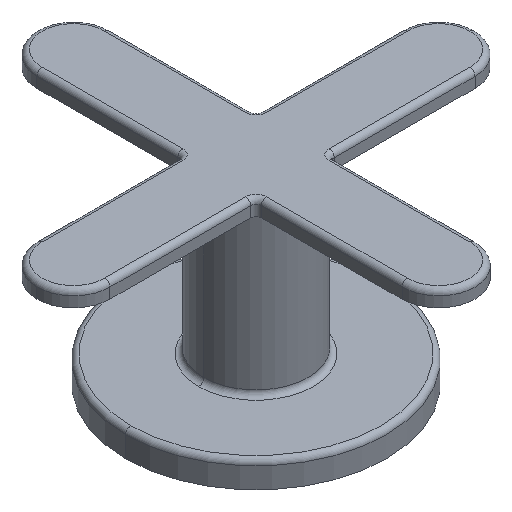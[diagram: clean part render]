
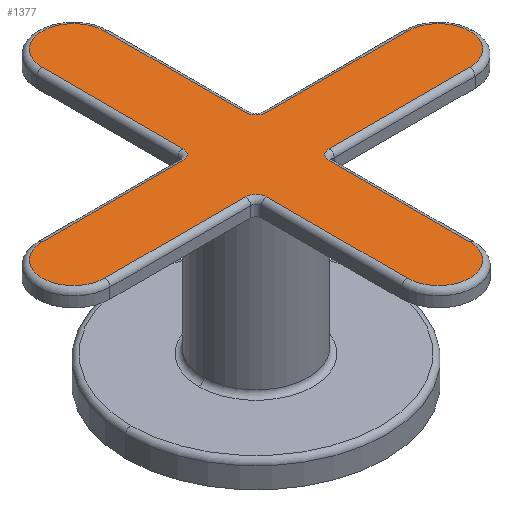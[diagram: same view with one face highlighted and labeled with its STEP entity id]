
A CAD part, isometric view. The second image highlights one B-rep face of the part: STEP entity #1377.
In plain terms, the highlighted planar face has unit normal (0, 0, 1).
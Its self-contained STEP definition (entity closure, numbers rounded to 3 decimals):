
#10 = VECTOR ( 'NONE', #498, 1000. ) ;
#15 = VERTEX_POINT ( 'NONE', #409 ) ;
#21 = ORIENTED_EDGE ( 'NONE', *, *, #1110, .T. ) ;
#27 = EDGE_CURVE ( 'NONE', #594, #480, #940, .T. ) ;
#53 = CARTESIAN_POINT ( 'NONE',  ( 35., -6., 38. ) ) ;
#62 = LINE ( 'NONE', #330, #1158 ) ;
#73 = DIRECTION ( 'NONE',  ( 1., 0., 0. ) ) ;
#74 = CARTESIAN_POINT ( 'NONE',  ( 41., 0., 38. ) ) ;
#81 = DIRECTION ( 'NONE',  ( 1., 0., 0. ) ) ;
#104 = VECTOR ( 'NONE', #1336, 1000. ) ;
#109 = DIRECTION ( 'NONE',  ( 1., 0., 0. ) ) ;
#110 = DIRECTION ( 'NONE',  ( 1., 0., 0. ) ) ;
#115 = CARTESIAN_POINT ( 'NONE',  ( -35., 6., 38. ) ) ;
#127 = EDGE_LOOP ( 'NONE', ( #633, #1016, #953, #430, #393, #876, #352, #724, #1339, #179, #1124, #293, #21, #1103, #429, #855, #237 ) ) ;
#138 = DIRECTION ( 'NONE',  ( 0., 1., 0. ) ) ;
#157 = DIRECTION ( 'NONE',  ( 0., 0., 1. ) ) ;
#160 = CARTESIAN_POINT ( 'NONE',  ( -6., 35., 38. ) ) ;
#165 = CARTESIAN_POINT ( 'NONE',  ( 35., 0., 38. ) ) ;
#179 = ORIENTED_EDGE ( 'NONE', *, *, #524, .T. ) ;
#181 = DIRECTION ( 'NONE',  ( 0., 0., 1. ) ) ;
#190 = CARTESIAN_POINT ( 'NONE',  ( -35., 0., 38. ) ) ;
#223 = CARTESIAN_POINT ( 'NONE',  ( 8., 6., 38. ) ) ;
#237 = ORIENTED_EDGE ( 'NONE', *, *, #1015, .T. ) ;
#262 = CIRCLE ( 'NONE', #377, 2. ) ;
#266 = DIRECTION ( 'NONE',  ( -1., 0., 0. ) ) ;
#275 = EDGE_CURVE ( 'NONE', #318, #685, #62, .T. ) ;
#293 = ORIENTED_EDGE ( 'NONE', *, *, #1066, .T. ) ;
#318 = VERTEX_POINT ( 'NONE', #472 ) ;
#322 = CIRCLE ( 'NONE', #1250, 2. ) ;
#325 = DIRECTION ( 'NONE',  ( 0., 0., 1. ) ) ;
#330 = CARTESIAN_POINT ( 'NONE',  ( -35., 6., 38. ) ) ;
#340 = CARTESIAN_POINT ( 'NONE',  ( 6., 35., 38. ) ) ;
#352 = ORIENTED_EDGE ( 'NONE', *, *, #275, .T. ) ;
#354 = CIRCLE ( 'NONE', #809, 6. ) ;
#357 = DIRECTION ( 'NONE',  ( 1., 0., 0. ) ) ;
#377 = AXIS2_PLACEMENT_3D ( 'NONE', #515, #1048, #81 ) ;
#393 = ORIENTED_EDGE ( 'NONE', *, *, #780, .T. ) ;
#395 = CARTESIAN_POINT ( 'NONE',  ( 8., -6., 38. ) ) ;
#409 = CARTESIAN_POINT ( 'NONE',  ( -6., -35., 38. ) ) ;
#418 = CARTESIAN_POINT ( 'NONE',  ( 8., 6., 38. ) ) ;
#429 = ORIENTED_EDGE ( 'NONE', *, *, #862, .T. ) ;
#430 = ORIENTED_EDGE ( 'NONE', *, *, #587, .T. ) ;
#440 = VECTOR ( 'NONE', #138, 1000. ) ;
#451 = VERTEX_POINT ( 'NONE', #395 ) ;
#465 = CIRCLE ( 'NONE', #710, 2. ) ;
#470 = EDGE_CURVE ( 'NONE', #685, #918, #1204, .T. ) ;
#472 = CARTESIAN_POINT ( 'NONE',  ( -8., 6., 38. ) ) ;
#477 = DIRECTION ( 'NONE',  ( 1., 0., 0. ) ) ;
#480 = VERTEX_POINT ( 'NONE', #74 ) ;
#485 = EDGE_CURVE ( 'NONE', #850, #15, #1165, .T. ) ;
#489 = VECTOR ( 'NONE', #357, 1000. ) ;
#498 = DIRECTION ( 'NONE',  ( 0., -1., 0. ) ) ;
#507 = VECTOR ( 'NONE', #477, 1000. ) ;
#515 = CARTESIAN_POINT ( 'NONE',  ( -8., -8., 38. ) ) ;
#524 = EDGE_CURVE ( 'NONE', #767, #850, #262, .T. ) ;
#531 = CIRCLE ( 'NONE', #784, 2. ) ;
#538 = DIRECTION ( 'NONE',  ( 1., 0., 0. ) ) ;
#587 = EDGE_CURVE ( 'NONE', #1061, #993, #1271, .T. ) ;
#592 = EDGE_CURVE ( 'NONE', #720, #1274, #322, .T. ) ;
#594 = VERTEX_POINT ( 'NONE', #1178 ) ;
#595 = DIRECTION ( 'NONE',  ( 0., 0., 1. ) ) ;
#605 = AXIS2_PLACEMENT_3D ( 'NONE', #744, #1389, #109 ) ;
#629 = CARTESIAN_POINT ( 'NONE',  ( 8., 8., 38. ) ) ;
#633 = ORIENTED_EDGE ( 'NONE', *, *, #881, .T. ) ;
#635 = DIRECTION ( 'NONE',  ( 1., 0., 0. ) ) ;
#641 = DIRECTION ( 'NONE',  ( 0., 0., -1. ) ) ;
#656 = DIRECTION ( 'NONE',  ( -1., 0., 0. ) ) ;
#661 = CARTESIAN_POINT ( 'NONE',  ( -6., 8., 38. ) ) ;
#663 = DIRECTION ( 'NONE',  ( 0., 1., 0. ) ) ;
#671 = CARTESIAN_POINT ( 'NONE',  ( 6., -35., 38. ) ) ;
#680 = LINE ( 'NONE', #986, #489 ) ;
#684 = VERTEX_POINT ( 'NONE', #1285 ) ;
#685 = VERTEX_POINT ( 'NONE', #115 ) ;
#710 = AXIS2_PLACEMENT_3D ( 'NONE', #1390, #641, #110 ) ;
#720 = VERTEX_POINT ( 'NONE', #418 ) ;
#722 = CARTESIAN_POINT ( 'NONE',  ( -6., -35., 38. ) ) ;
#724 = ORIENTED_EDGE ( 'NONE', *, *, #470, .T. ) ;
#733 = EDGE_CURVE ( 'NONE', #1014, #318, #465, .T. ) ;
#744 = CARTESIAN_POINT ( 'NONE',  ( 0., 35., 38. ) ) ;
#760 = EDGE_CURVE ( 'NONE', #918, #767, #680, .T. ) ;
#767 = VERTEX_POINT ( 'NONE', #914 ) ;
#771 = DIRECTION ( 'NONE',  ( 1., 0., 0. ) ) ;
#780 = EDGE_CURVE ( 'NONE', #993, #1014, #878, .T. ) ;
#781 = AXIS2_PLACEMENT_3D ( 'NONE', #1156, #1374, #1267 ) ;
#784 = AXIS2_PLACEMENT_3D ( 'NONE', #1307, #1003, #771 ) ;
#809 = AXIS2_PLACEMENT_3D ( 'NONE', #165, #595, #73 ) ;
#814 = VERTEX_POINT ( 'NONE', #671 ) ;
#832 = EDGE_CURVE ( 'NONE', #1274, #1061, #1106, .T. ) ;
#850 = VERTEX_POINT ( 'NONE', #1224 ) ;
#855 = ORIENTED_EDGE ( 'NONE', *, *, #27, .T. ) ;
#862 = EDGE_CURVE ( 'NONE', #451, #594, #1018, .T. ) ;
#867 = AXIS2_PLACEMENT_3D ( 'NONE', #190, #181, #1263 ) ;
#876 = ORIENTED_EDGE ( 'NONE', *, *, #733, .T. ) ;
#878 = LINE ( 'NONE', #661, #104 ) ;
#881 = EDGE_CURVE ( 'NONE', #1075, #720, #1193, .T. ) ;
#889 = CARTESIAN_POINT ( 'NONE',  ( 6., 35., 38. ) ) ;
#891 = CARTESIAN_POINT ( 'NONE',  ( 0., -35., 38. ) ) ;
#901 = VECTOR ( 'NONE', #663, 1000. ) ;
#914 = CARTESIAN_POINT ( 'NONE',  ( -8., -6., 38. ) ) ;
#918 = VERTEX_POINT ( 'NONE', #1230 ) ;
#936 = CARTESIAN_POINT ( 'NONE',  ( 6., 8., 38. ) ) ;
#940 = CIRCLE ( 'NONE', #1248, 6. ) ;
#945 = CARTESIAN_POINT ( 'NONE',  ( -6., 8., 38. ) ) ;
#947 = PLANE ( 'NONE',  #605 ) ;
#953 = ORIENTED_EDGE ( 'NONE', *, *, #832, .T. ) ;
#986 = CARTESIAN_POINT ( 'NONE',  ( -8., -6., 38. ) ) ;
#993 = VERTEX_POINT ( 'NONE', #160 ) ;
#1003 = DIRECTION ( 'NONE',  ( 0., 0., -1. ) ) ;
#1014 = VERTEX_POINT ( 'NONE', #945 ) ;
#1015 = EDGE_CURVE ( 'NONE', #480, #1075, #354, .T. ) ;
#1016 = ORIENTED_EDGE ( 'NONE', *, *, #592, .T. ) ;
#1018 = LINE ( 'NONE', #53, #507 ) ;
#1020 = DIRECTION ( 'NONE',  ( 1., 0., 0. ) ) ;
#1048 = DIRECTION ( 'NONE',  ( 0., 0., -1. ) ) ;
#1053 = CIRCLE ( 'NONE', #1295, 6. ) ;
#1061 = VERTEX_POINT ( 'NONE', #340 ) ;
#1066 = EDGE_CURVE ( 'NONE', #15, #814, #1053, .T. ) ;
#1075 = VERTEX_POINT ( 'NONE', #1108 ) ;
#1103 = ORIENTED_EDGE ( 'NONE', *, *, #1109, .T. ) ;
#1106 = LINE ( 'NONE', #889, #440 ) ;
#1108 = CARTESIAN_POINT ( 'NONE',  ( 35., 6., 38. ) ) ;
#1109 = EDGE_CURVE ( 'NONE', #684, #451, #531, .T. ) ;
#1110 = EDGE_CURVE ( 'NONE', #814, #684, #1211, .T. ) ;
#1124 = ORIENTED_EDGE ( 'NONE', *, *, #485, .T. ) ;
#1156 = CARTESIAN_POINT ( 'NONE',  ( 0., 35., 38. ) ) ;
#1158 = VECTOR ( 'NONE', #656, 1000. ) ;
#1165 = LINE ( 'NONE', #722, #10 ) ;
#1166 = FACE_OUTER_BOUND ( 'NONE', #127, .T. ) ;
#1178 = CARTESIAN_POINT ( 'NONE',  ( 35., -6., 38. ) ) ;
#1193 = LINE ( 'NONE', #223, #1294 ) ;
#1200 = CARTESIAN_POINT ( 'NONE',  ( 6., -8., 38. ) ) ;
#1204 = CIRCLE ( 'NONE', #867, 6. ) ;
#1211 = LINE ( 'NONE', #1200, #901 ) ;
#1224 = CARTESIAN_POINT ( 'NONE',  ( -6., -8., 38. ) ) ;
#1230 = CARTESIAN_POINT ( 'NONE',  ( -35., -6., 38. ) ) ;
#1248 = AXIS2_PLACEMENT_3D ( 'NONE', #1379, #325, #538 ) ;
#1250 = AXIS2_PLACEMENT_3D ( 'NONE', #629, #1269, #635 ) ;
#1263 = DIRECTION ( 'NONE',  ( 1., 0., 0. ) ) ;
#1267 = DIRECTION ( 'NONE',  ( 1., 0., 0. ) ) ;
#1269 = DIRECTION ( 'NONE',  ( 0., 0., -1. ) ) ;
#1271 = CIRCLE ( 'NONE', #781, 6. ) ;
#1274 = VERTEX_POINT ( 'NONE', #936 ) ;
#1285 = CARTESIAN_POINT ( 'NONE',  ( 6., -8., 38. ) ) ;
#1294 = VECTOR ( 'NONE', #266, 1000. ) ;
#1295 = AXIS2_PLACEMENT_3D ( 'NONE', #891, #157, #1020 ) ;
#1307 = CARTESIAN_POINT ( 'NONE',  ( 8., -8., 38. ) ) ;
#1336 = DIRECTION ( 'NONE',  ( 0., -1., 0. ) ) ;
#1339 = ORIENTED_EDGE ( 'NONE', *, *, #760, .T. ) ;
#1374 = DIRECTION ( 'NONE',  ( 0., 0., 1. ) ) ;
#1377 = ADVANCED_FACE ( 'NONE', ( #1166 ), #947, .T. ) ;
#1379 = CARTESIAN_POINT ( 'NONE',  ( 35., 0., 38. ) ) ;
#1389 = DIRECTION ( 'NONE',  ( 0., 0., 1. ) ) ;
#1390 = CARTESIAN_POINT ( 'NONE',  ( -8., 8., 38. ) ) ;
